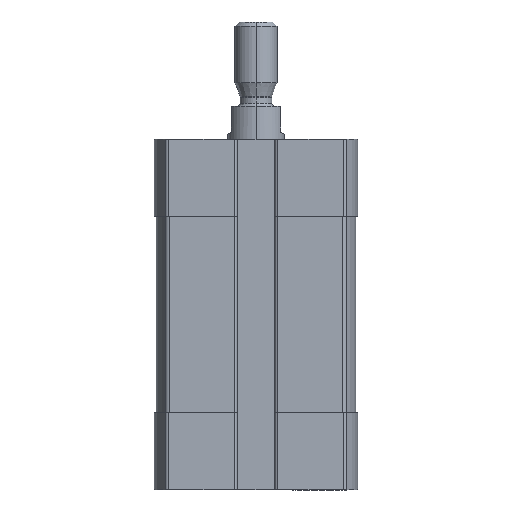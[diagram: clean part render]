
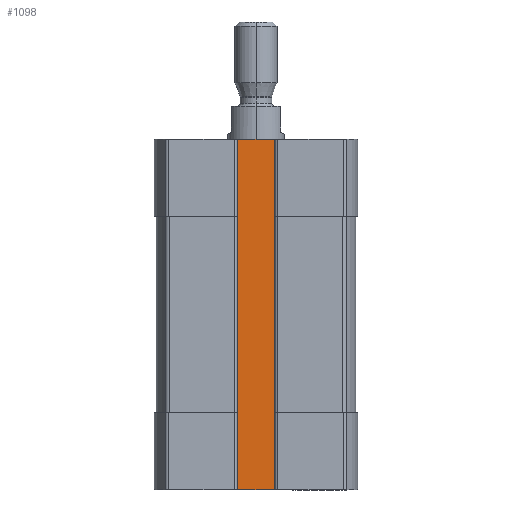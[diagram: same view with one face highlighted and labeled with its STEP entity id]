
A CAD part, left-side view. The second image highlights one B-rep face of the part: STEP entity #1098.
In plain terms, the highlighted planar face has unit normal (-1, 0, 0).
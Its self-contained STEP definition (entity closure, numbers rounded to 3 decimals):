
#354 = VECTOR ( 'NONE', #10939, 1000. ) ;
#610 = CARTESIAN_POINT ( 'NONE',  ( -9.3, -3., -50. ) ) ;
#820 = VERTEX_POINT ( 'NONE', #4386 ) ;
#1098 = ADVANCED_FACE ( 'NONE', ( #2949 ), #9305, .T. ) ;
#1130 = CARTESIAN_POINT ( 'NONE',  ( -9.3, 3., -50. ) ) ;
#1525 = CARTESIAN_POINT ( 'NONE',  ( -9.3, -3.1, 0. ) ) ;
#2030 = ORIENTED_EDGE ( 'NONE', *, *, #11272, .T. ) ;
#2104 = CARTESIAN_POINT ( 'NONE',  ( -9.3, -3., -50. ) ) ;
#2243 = LINE ( 'NONE', #5994, #9094 ) ;
#2317 = ORIENTED_EDGE ( 'NONE', *, *, #2957, .T. ) ;
#2389 = EDGE_CURVE ( 'NONE', #7309, #10311, #9617, .T. ) ;
#2477 = VECTOR ( 'NONE', #11400, 1000. ) ;
#2949 = FACE_OUTER_BOUND ( 'NONE', #6057, .T. ) ;
#2957 = EDGE_CURVE ( 'NONE', #7838, #10311, #6933, .T. ) ;
#4386 = CARTESIAN_POINT ( 'NONE',  ( -9.3, 3., -50. ) ) ;
#4633 = AXIS2_PLACEMENT_3D ( 'NONE', #7962, #7464, #9421 ) ;
#5994 = CARTESIAN_POINT ( 'NONE',  ( -9.3, 3., -50. ) ) ;
#6057 = EDGE_LOOP ( 'NONE', ( #2030, #2317, #7728, #8813 ) ) ;
#6379 = CARTESIAN_POINT ( 'NONE',  ( -9.3, -3., 0. ) ) ;
#6530 = DIRECTION ( 'NONE',  ( 0., 0., 1. ) ) ;
#6933 = LINE ( 'NONE', #2104, #11157 ) ;
#7309 = VERTEX_POINT ( 'NONE', #8818 ) ;
#7464 = DIRECTION ( 'NONE',  ( -1., 0., 0. ) ) ;
#7728 = ORIENTED_EDGE ( 'NONE', *, *, #2389, .F. ) ;
#7838 = VERTEX_POINT ( 'NONE', #610 ) ;
#7962 = CARTESIAN_POINT ( 'NONE',  ( -9.3, 3., -50. ) ) ;
#8632 = EDGE_CURVE ( 'NONE', #7309, #820, #9583, .T. ) ;
#8813 = ORIENTED_EDGE ( 'NONE', *, *, #8632, .T. ) ;
#8818 = CARTESIAN_POINT ( 'NONE',  ( -9.3, 3., 0. ) ) ;
#9094 = VECTOR ( 'NONE', #11384, 1000. ) ;
#9305 = PLANE ( 'NONE',  #4633 ) ;
#9421 = DIRECTION ( 'NONE',  ( 0., 0., 1. ) ) ;
#9583 = LINE ( 'NONE', #1130, #354 ) ;
#9617 = LINE ( 'NONE', #1525, #2477 ) ;
#10311 = VERTEX_POINT ( 'NONE', #6379 ) ;
#10939 = DIRECTION ( 'NONE',  ( 0., 0., -1. ) ) ;
#11157 = VECTOR ( 'NONE', #6530, 1000. ) ;
#11272 = EDGE_CURVE ( 'NONE', #820, #7838, #2243, .T. ) ;
#11384 = DIRECTION ( 'NONE',  ( 0., -1., 0. ) ) ;
#11400 = DIRECTION ( 'NONE',  ( 0., -1., 0. ) ) ;
